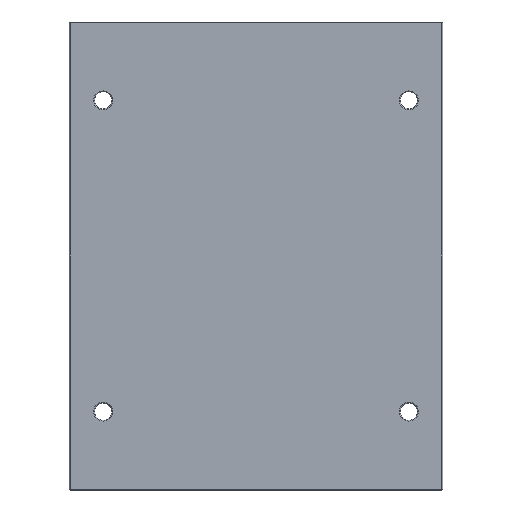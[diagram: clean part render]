
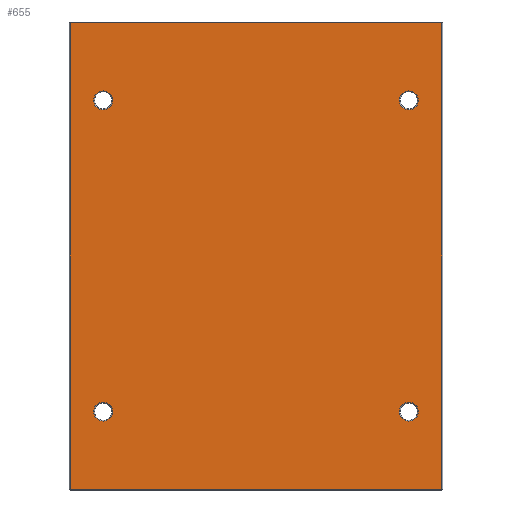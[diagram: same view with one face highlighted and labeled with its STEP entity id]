
A CAD part, front view. The second image highlights one B-rep face of the part: STEP entity #655.
In plain terms, the highlighted planar face has unit normal (0, -1, 0).
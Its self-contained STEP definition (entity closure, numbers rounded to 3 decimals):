
#5 = CIRCLE ( 'NONE', #1276, 10. ) ;
#6 = CIRCLE ( 'NONE', #457, 10. ) ;
#7 = FACE_BOUND ( 'NONE', #286, .T. ) ;
#14 = DIRECTION ( 'NONE',  ( 1., 0., 0. ) ) ;
#23 = CARTESIAN_POINT ( 'NONE',  ( 0., 0., -247. ) ) ;
#40 = ORIENTED_EDGE ( 'NONE', *, *, #291, .T. ) ;
#44 = ORIENTED_EDGE ( 'NONE', *, *, #1109, .T. ) ;
#45 = DIRECTION ( 'NONE',  ( 0., 0., -1. ) ) ;
#59 = CIRCLE ( 'NONE', #691, 10. ) ;
#67 = VERTEX_POINT ( 'NONE', #93 ) ;
#90 = VECTOR ( 'NONE', #45, 1000. ) ;
#91 = DIRECTION ( 'NONE',  ( -1., 0., 0. ) ) ;
#93 = CARTESIAN_POINT ( 'NONE',  ( 162., 0., -175. ) ) ;
#100 = CARTESIAN_POINT ( 'NONE',  ( 0., 0., 247. ) ) ;
#102 = CARTESIAN_POINT ( 'NONE',  ( -162., 0., -175. ) ) ;
#108 = CARTESIAN_POINT ( 'NONE',  ( -197., 0., 0. ) ) ;
#122 = DIRECTION ( 'NONE',  ( 0., 0., 1. ) ) ;
#124 = FACE_BOUND ( 'NONE', #246, .T. ) ;
#126 = DIRECTION ( 'NONE',  ( 0., 1., 0. ) ) ;
#140 = CARTESIAN_POINT ( 'NONE',  ( -162., 0., -165. ) ) ;
#175 = DIRECTION ( 'NONE',  ( 0., 0., 1. ) ) ;
#181 = DIRECTION ( 'NONE',  ( 0., 1., 0. ) ) ;
#184 = CARTESIAN_POINT ( 'NONE',  ( -162., 0., 165. ) ) ;
#199 = CARTESIAN_POINT ( 'NONE',  ( 197., 0., 0. ) ) ;
#242 = EDGE_CURVE ( 'NONE', #67, #430, #396, .T. ) ;
#246 = EDGE_LOOP ( 'NONE', ( #1230, #44 ) ) ;
#251 = DIRECTION ( 'NONE',  ( 0., 0., 1. ) ) ;
#258 = VERTEX_POINT ( 'NONE', #1004 ) ;
#261 = VERTEX_POINT ( 'NONE', #998 ) ;
#286 = EDGE_LOOP ( 'NONE', ( #40, #1191 ) ) ;
#291 = EDGE_CURVE ( 'NONE', #622, #1330, #6, .T. ) ;
#293 = DIRECTION ( 'NONE',  ( 0., 1., 0. ) ) ;
#299 = CARTESIAN_POINT ( 'NONE',  ( 162., 0., 165. ) ) ;
#396 = CIRCLE ( 'NONE', #620, 10. ) ;
#419 = DIRECTION ( 'NONE',  ( 0., 0., 1. ) ) ;
#422 = DIRECTION ( 'NONE',  ( 0., 0., 1. ) ) ;
#427 = DIRECTION ( 'NONE',  ( 0., 1., 0. ) ) ;
#430 = VERTEX_POINT ( 'NONE', #1583 ) ;
#433 = CARTESIAN_POINT ( 'NONE',  ( 162., 0., -165. ) ) ;
#447 = FACE_BOUND ( 'NONE', #831, .T. ) ;
#457 = AXIS2_PLACEMENT_3D ( 'NONE', #743, #739, #733 ) ;
#475 = EDGE_CURVE ( 'NONE', #1094, #258, #795, .T. ) ;
#476 = CARTESIAN_POINT ( 'NONE',  ( -162., 0., 155. ) ) ;
#500 = EDGE_LOOP ( 'NONE', ( #1131, #1093, #1091, #1050 ) ) ;
#530 = EDGE_CURVE ( 'NONE', #1195, #642, #5, .T. ) ;
#535 = CARTESIAN_POINT ( 'NONE',  ( -197., 0., -247. ) ) ;
#578 = AXIS2_PLACEMENT_3D ( 'NONE', #140, #126, #122 ) ;
#605 = AXIS2_PLACEMENT_3D ( 'NONE', #184, #181, #175 ) ;
#620 = AXIS2_PLACEMENT_3D ( 'NONE', #1125, #1115, #1107 ) ;
#622 = VERTEX_POINT ( 'NONE', #1609 ) ;
#632 = AXIS2_PLACEMENT_3D ( 'NONE', #299, #293, #251 ) ;
#636 = VERTEX_POINT ( 'NONE', #1632 ) ;
#642 = VERTEX_POINT ( 'NONE', #1535 ) ;
#655 = ADVANCED_FACE ( 'NONE', ( #124, #7, #1652, #447, #1166 ), #1437, .F. ) ;
#691 = AXIS2_PLACEMENT_3D ( 'NONE', #433, #427, #422 ) ;
#724 = DIRECTION ( 'NONE',  ( 0., 1., 0. ) ) ;
#733 = DIRECTION ( 'NONE',  ( 0., 0., 1. ) ) ;
#739 = DIRECTION ( 'NONE',  ( 0., 1., 0. ) ) ;
#743 = CARTESIAN_POINT ( 'NONE',  ( 162., 0., 165. ) ) ;
#752 = EDGE_LOOP ( 'NONE', ( #1188, #1172 ) ) ;
#782 = DIRECTION ( 'NONE',  ( 0., 0., 1. ) ) ;
#786 = VECTOR ( 'NONE', #419, 1000. ) ;
#795 = CIRCLE ( 'NONE', #1376, 10. ) ;
#802 = CARTESIAN_POINT ( 'NONE',  ( -162., 0., -165. ) ) ;
#831 = EDGE_LOOP ( 'NONE', ( #1153, #1134 ) ) ;
#882 = VECTOR ( 'NONE', #91, 1000. ) ;
#938 = AXIS2_PLACEMENT_3D ( 'NONE', #1424, #1487, #1421 ) ;
#942 = CIRCLE ( 'NONE', #578, 10. ) ;
#961 = LINE ( 'NONE', #108, #90 ) ;
#981 = CIRCLE ( 'NONE', #605, 10. ) ;
#998 = CARTESIAN_POINT ( 'NONE',  ( -197., 0., 247. ) ) ;
#1004 = CARTESIAN_POINT ( 'NONE',  ( -162., 0., 175. ) ) ;
#1050 = ORIENTED_EDGE ( 'NONE', *, *, #1225, .T. ) ;
#1080 = VERTEX_POINT ( 'NONE', #535 ) ;
#1091 = ORIENTED_EDGE ( 'NONE', *, *, #1211, .T. ) ;
#1093 = ORIENTED_EDGE ( 'NONE', *, *, #1202, .T. ) ;
#1094 = VERTEX_POINT ( 'NONE', #476 ) ;
#1107 = DIRECTION ( 'NONE',  ( 0., 0., 1. ) ) ;
#1109 = EDGE_CURVE ( 'NONE', #430, #67, #59, .T. ) ;
#1113 = CIRCLE ( 'NONE', #632, 10. ) ;
#1115 = DIRECTION ( 'NONE',  ( 0., 1., 0. ) ) ;
#1124 = DIRECTION ( 'NONE',  ( 0., 0., 1. ) ) ;
#1125 = CARTESIAN_POINT ( 'NONE',  ( 162., 0., -165. ) ) ;
#1128 = DIRECTION ( 'NONE',  ( 0., 1., 0. ) ) ;
#1129 = CARTESIAN_POINT ( 'NONE',  ( -162., 0., 165. ) ) ;
#1131 = ORIENTED_EDGE ( 'NONE', *, *, #1190, .T. ) ;
#1134 = ORIENTED_EDGE ( 'NONE', *, *, #1170, .T. ) ;
#1143 = EDGE_CURVE ( 'NONE', #1330, #622, #1113, .T. ) ;
#1153 = ORIENTED_EDGE ( 'NONE', *, *, #530, .T. ) ;
#1163 = EDGE_CURVE ( 'NONE', #258, #1094, #981, .T. ) ;
#1166 = FACE_OUTER_BOUND ( 'NONE', #500, .T. ) ;
#1170 = EDGE_CURVE ( 'NONE', #642, #1195, #942, .T. ) ;
#1172 = ORIENTED_EDGE ( 'NONE', *, *, #1163, .T. ) ;
#1188 = ORIENTED_EDGE ( 'NONE', *, *, #475, .T. ) ;
#1190 = EDGE_CURVE ( 'NONE', #636, #1423, #1499, .T. ) ;
#1191 = ORIENTED_EDGE ( 'NONE', *, *, #1143, .T. ) ;
#1195 = VERTEX_POINT ( 'NONE', #102 ) ;
#1202 = EDGE_CURVE ( 'NONE', #1423, #261, #1277, .T. ) ;
#1211 = EDGE_CURVE ( 'NONE', #261, #1080, #961, .T. ) ;
#1225 = EDGE_CURVE ( 'NONE', #1080, #636, #1596, .T. ) ;
#1230 = ORIENTED_EDGE ( 'NONE', *, *, #242, .T. ) ;
#1276 = AXIS2_PLACEMENT_3D ( 'NONE', #802, #724, #782 ) ;
#1277 = LINE ( 'NONE', #100, #882 ) ;
#1330 = VERTEX_POINT ( 'NONE', #1386 ) ;
#1376 = AXIS2_PLACEMENT_3D ( 'NONE', #1129, #1128, #1124 ) ;
#1386 = CARTESIAN_POINT ( 'NONE',  ( 162., 0., 175. ) ) ;
#1421 = DIRECTION ( 'NONE',  ( 0., 0., 1. ) ) ;
#1423 = VERTEX_POINT ( 'NONE', #1569 ) ;
#1424 = CARTESIAN_POINT ( 'NONE',  ( 0., 0., 0. ) ) ;
#1437 = PLANE ( 'NONE',  #938 ) ;
#1487 = DIRECTION ( 'NONE',  ( 0., 1., 0. ) ) ;
#1499 = LINE ( 'NONE', #199, #786 ) ;
#1535 = CARTESIAN_POINT ( 'NONE',  ( -162., 0., -155. ) ) ;
#1569 = CARTESIAN_POINT ( 'NONE',  ( 197., 0., 247. ) ) ;
#1583 = CARTESIAN_POINT ( 'NONE',  ( 162., 0., -155. ) ) ;
#1596 = LINE ( 'NONE', #23, #1633 ) ;
#1609 = CARTESIAN_POINT ( 'NONE',  ( 162., 0., 155. ) ) ;
#1632 = CARTESIAN_POINT ( 'NONE',  ( 197., 0., -247. ) ) ;
#1633 = VECTOR ( 'NONE', #14, 1000. ) ;
#1652 = FACE_BOUND ( 'NONE', #752, .T. ) ;
